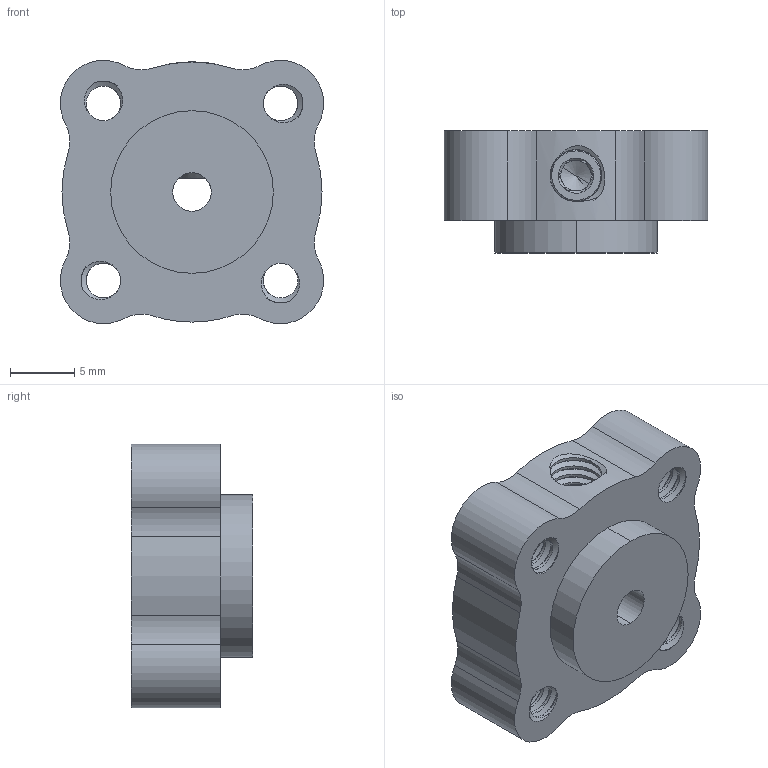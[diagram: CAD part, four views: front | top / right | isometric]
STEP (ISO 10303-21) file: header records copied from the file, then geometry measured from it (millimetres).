
FILE_DESCRIPTION (( 'STEP AP203' ), '1' );
FILE_NAME ('545564 assembly.STEP', '2016-08-17T18:41:17', ( '' ), ( '' ), 'SwSTEP 2.0', 'SolidWorks 2014', '' );
FILE_SCHEMA (( 'CONFIG_CONTROL_DESIGN' ));
Length unit declared in the file: inch
Products named in the file (3): 632138_91375A438; 545564; 545564 assembly
Assembly tree (2 placements, depth 2):
  545564 assembly
    545564
    632138_91375A438
Bounding box: 20.57 x 9.53 x 20.57 mm (x, y, z)
Volume: 2737.5 mm3; surface area: 2223.1 mm2
Topology: 2 solids, 2 shells, 299 faces, 865 edges, 567 vertices
Faces by surface type: cylinder 244, bspline 19, plane 18, cone 18
Entity records: 22890 total; most frequent: CARTESIAN_POINT 16149, ORIENTED_EDGE 1722, DIRECTION 1018, EDGE_CURVE 861, VERTEX_POINT 567, AXIS2_PLACEMENT_3D 381, EDGE_LOOP 312, FACE_OUTER_BOUND 299
